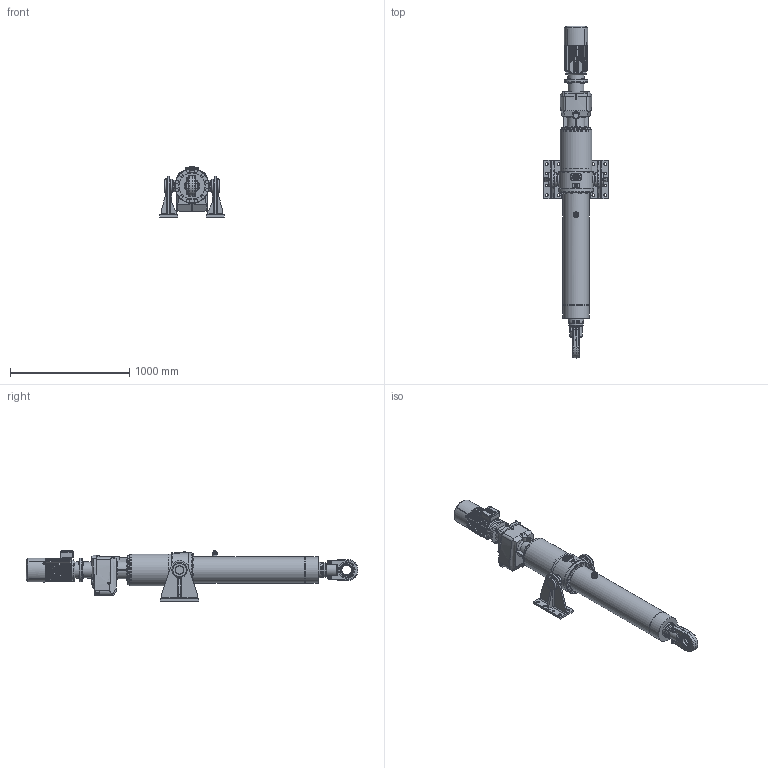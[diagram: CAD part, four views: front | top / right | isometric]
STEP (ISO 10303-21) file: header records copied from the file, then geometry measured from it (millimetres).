
FILE_DESCRIPTION(/* description */ ('Unknown'),/* implementation_level */ '2;1');
FILE_NAME(/* name */ 'K1M9-0600-168-489-2',/* time_stamp */ '2025-04-25T10:47:48+02:00',/* author */ ('Christoph Hahmann'),/* organization */ ('RACO-ELEKTRO-MASCHINEN GmbH'),/* preprocessor_version */ 'ST-DEVELOPER v18.104',/* originating_system */ 'Solid Edge',/* authorisation */ 'Unknown');
FILE_SCHEMA (('AUTOMOTIVE_DESIGN {1 0 10303 214 3 1 1}'));
Products named in the file (17): 168-489-2; 03.01-09-mit DZ; 02.14-09-0600; 01.15-09-0600-o Gewinde; 01.01-09_80; Entlüftung M30; 03.65-09; 100-B5-lang-BR_ohne; Ex_Adapter; Lüfterhaube-100-lang; Tülle; 04.01-09 ohne GZ; 04.40-ﾘ250; SK52F-IEC90; 168-489-2_1; Klemmenkasten; Erdungsschraube_M10_kpl
Assembly tree (17 placements, depth 2):
  168-489-2
    03.01-09-mit DZ
    02.14-09-0600
    01.15-09-0600-o Gewinde
    01.01-09_80
    Entlüftung M30
    03.65-09  x2
    100-B5-lang-BR_ohne
    Ex_Adapter
    Lüfterhaube-100-lang
    Tülle
    04.01-09 ohne GZ
    04.40-ﾘ250
    SK52F-IEC90
    168-489-2_1
    Klemmenkasten
    Erdungsschraube_M10_kpl
Bounding box: 540 x 2780.68 x 419.05 mm (x, y, z)
Volume: 111967282.1 mm3; surface area: 4430866.8 mm2
Topology: 21 solids, 32 shells, 6236 faces, 19086 edges, 12243 vertices
Faces by surface type: plane 4757, cylinder 877, bspline 207, cone 190, torus 154, sphere 51
Full cylindrical faces by diameter (mm): 1 x55, 3.5 x4, 4.134 x3, 4.6 x1, 5 x3, 5.3 x4, 5.5 x1, 6 x5, 6.429 x2, 7.5 x1, 7.85 x2, 8 x10, 9.6 x6, 10 x5, 11 x1, 12 x13, 13 x6, 13.3 x8, 14 x4, 15 x2, 15.5 x6, 17 x6, 17.8 x8, 18.1 x1, 18.5 x1, 19 x7, 20 x10, 22 x14, 23 x1, 23.9 x1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
Entity records: 245409 total; most frequent: CARTESIAN_POINT 42926, ORIENTED_EDGE 36308, DIRECTION 35610, EDGE_CURVE 18154, AXIS2_PLACEMENT_3D 12200, VERTEX_POINT 11908, LINE 11210, VECTOR 11210
